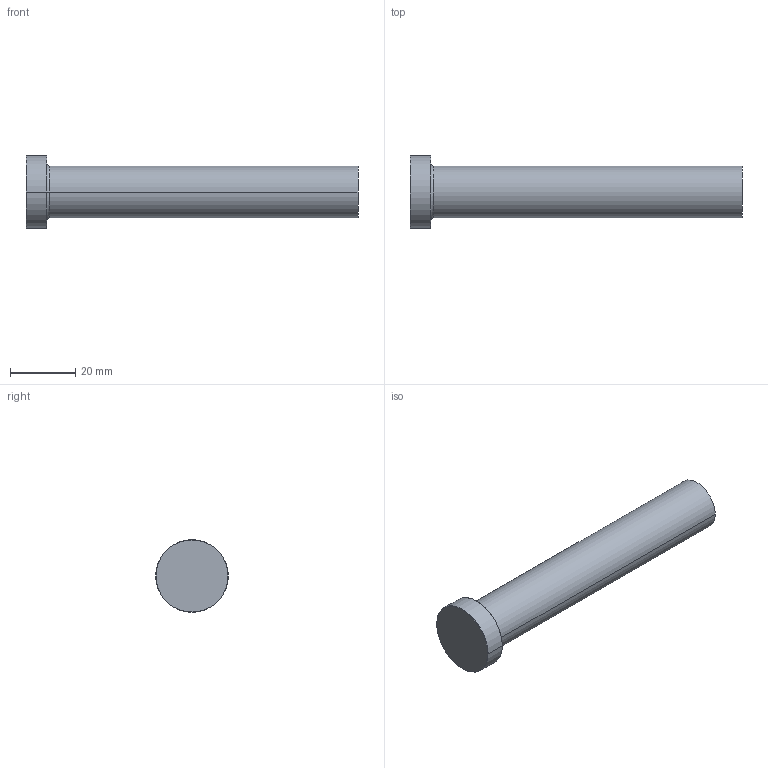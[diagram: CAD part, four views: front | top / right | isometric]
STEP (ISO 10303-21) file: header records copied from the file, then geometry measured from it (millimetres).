
FILE_DESCRIPTION (( 'STEP AP214' ), '1' );
FILE_NAME ('P37-4.STEP', '2020-03-12T12:05:13', ( '' ), ( '' ), 'SwSTEP 2.0', 'SolidWorks 2018', '' );
FILE_SCHEMA (( 'AUTOMOTIVE_DESIGN' ));
Length unit declared in the file: inch
Products named in the file (1): P37-4
Bounding box: 101.6 x 22.23 x 22.23 mm (x, y, z)
Volume: 21292 mm3; surface area: 5941.5 mm2
Topology: 1 solids, 1 shells, 13 faces, 24 edges, 14 vertices
Faces by surface type: cone 4, cylinder 4, plane 3, torus 2
Entity records: 366 total; most frequent: DIRECTION 68, CARTESIAN_POINT 52, ORIENTED_EDGE 48, AXIS2_PLACEMENT_3D 30, EDGE_CURVE 24, CIRCLE 16, EDGE_LOOP 14, VERTEX_POINT 14
